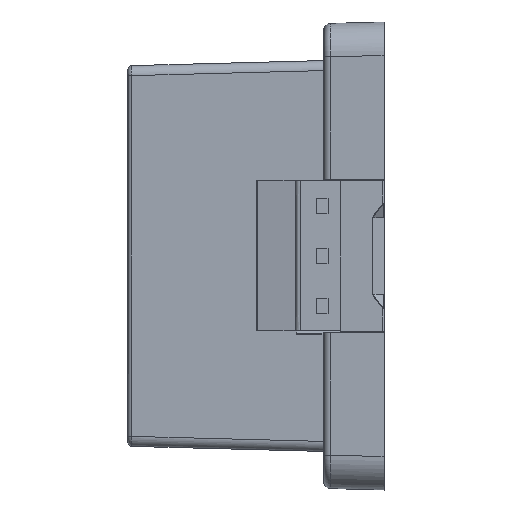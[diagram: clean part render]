
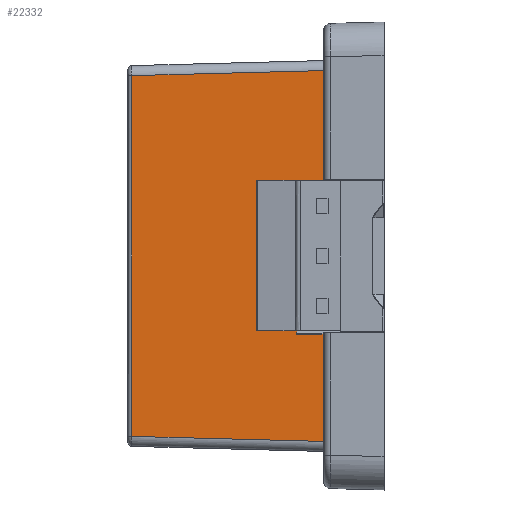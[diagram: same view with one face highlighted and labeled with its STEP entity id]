
A CAD part, left-side view. The second image highlights one B-rep face of the part: STEP entity #22332.
In plain terms, the highlighted planar face has unit normal (-1, 0.026, 0).
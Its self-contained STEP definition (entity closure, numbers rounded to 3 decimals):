
#20579=CARTESIAN_POINT('',(-54.5,0.,
27.75));
#20641=CARTESIAN_POINT('',(-53.73,29.416,
26.98));
#20753=DIRECTION('',(0.,0.,-1.));
#20754=VECTOR('',#20753,53.96);
#20755=CARTESIAN_POINT('',(-53.73,29.416,
26.98));
#20756=LINE('',#20755,#20754);
#20760=DIRECTION('',(-0.026,-0.999,0.026));
#20761=VECTOR('',#20760,29.436);
#20762=CARTESIAN_POINT('',(-53.73,29.416,
26.98));
#20763=LINE('',#20762,#20761);
#20767=DIRECTION('',(0.,0.,-1.));
#20768=VECTOR('',#20767,55.501);
#20769=CARTESIAN_POINT('',(-54.5,0.,
27.75));
#20770=LINE('',#20769,#20768);
#20774=DIRECTION('',(0.026,0.999,0.026));
#20775=VECTOR('',#20774,29.436);
#20776=CARTESIAN_POINT('',(-54.5,0.,
-27.75));
#20777=LINE('',#20776,#20775);
#20811=CARTESIAN_POINT('',(-54.5,0.,
-27.75));
#21701=VERTEX_POINT('',#20579);
#21710=VERTEX_POINT('',#20811);
#21739=VERTEX_POINT('',#20641);
#21772=CARTESIAN_POINT('',(-53.73,29.416,
-26.98));
#21773=VERTEX_POINT('',#21772);
#22320=CARTESIAN_POINT('',(-54.115,14.708,
0.));
#22321=DIRECTION('',(1.,-0.026,0.));
#22322=DIRECTION('',(0.,0.,-1.));
#22323=AXIS2_PLACEMENT_3D('',#22320,#22321,#22322);
#22324=PLANE('',#22323);
#22325=ORIENTED_EDGE('',*,*,#22307,.F.);
#22326=ORIENTED_EDGE('',*,*,#22155,.T.);
#22327=ORIENTED_EDGE('',*,*,#22079,.T.);
#22329=ORIENTED_EDGE('',*,*,#22328,.T.);
#22330=EDGE_LOOP('',(#22325,#22326,#22327,#22329));
#22331=FACE_OUTER_BOUND('',#22330,.F.);
#22332=ADVANCED_FACE('',(#22331),#22324,.F.);
#22079=EDGE_CURVE('',#21701,#21710,#20770,.T.);
#22155=EDGE_CURVE('',#21739,#21701,#20763,.T.);
#22307=EDGE_CURVE('',#21739,#21773,#20756,.T.);
#22328=EDGE_CURVE('',#21710,#21773,#20777,.T.);
